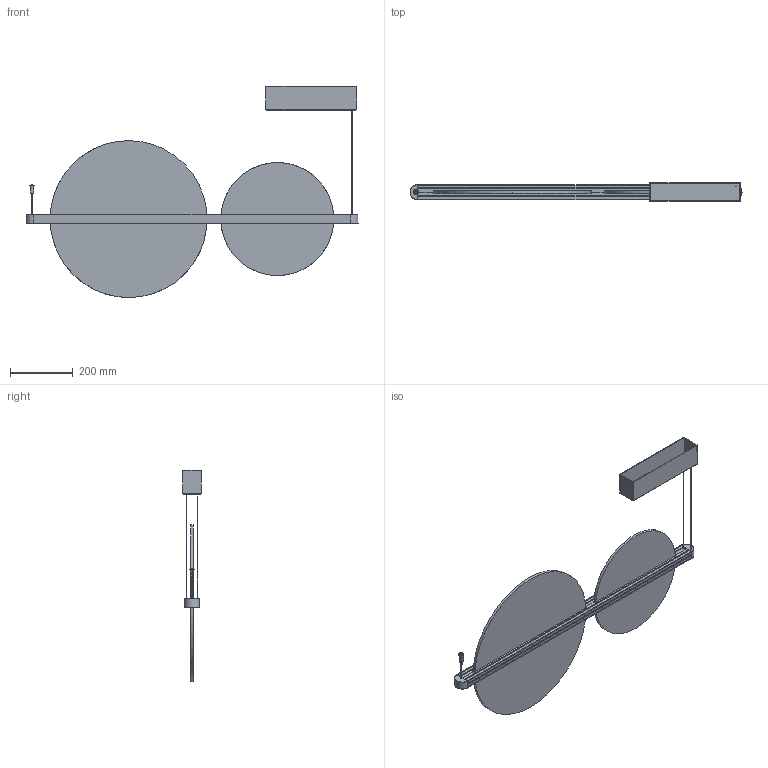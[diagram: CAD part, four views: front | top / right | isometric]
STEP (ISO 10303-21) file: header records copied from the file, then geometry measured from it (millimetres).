
FILE_DESCRIPTION(/* description */ (''),/* implementation_level */ '2;1');
FILE_NAME(/* name */ 'SE1292~1',/* time_stamp */ '2021-09-07T15:01:29+02:00',/* author */ (''),/* organization */ (''),/* preprocessor_version */ 'ST-DEVELOPER v16.5',/* originating_system */ '',/* authorisation */ '');
FILE_SCHEMA (('CONFIG_CONTROL_DESIGN'));
Length unit declared in the file: millimetre
Products named in the file (3): Document; CEL.005307_1; CEL.005307
Assembly tree (2 placements, depth 2):
  Document
    CEL.005307_1
    CEL.005307
Bounding box: 1058.49 x 60 x 672.78 mm (x, y, z)
Volume: 2935589.6 mm3; surface area: 1293433 mm2
Topology: 12 solids, 82 shells, 535 faces, 1779 edges, 1318 vertices
Faces by surface type: plane 276, cylinder 226, bspline 33
Entity records: 19777 total; most frequent: CARTESIAN_POINT 8866, ORIENTED_EDGE 3080, EDGE_CURVE 1779, VERTEX_POINT 1318, B_SPLINE_CURVE_WITH_KNOTS 1118, EDGE_LOOP 551, ADVANCED_FACE 535, FACE_OUTER_BOUND 535
